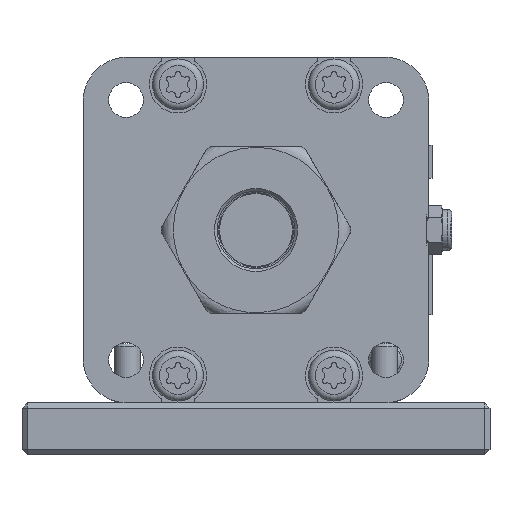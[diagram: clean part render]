
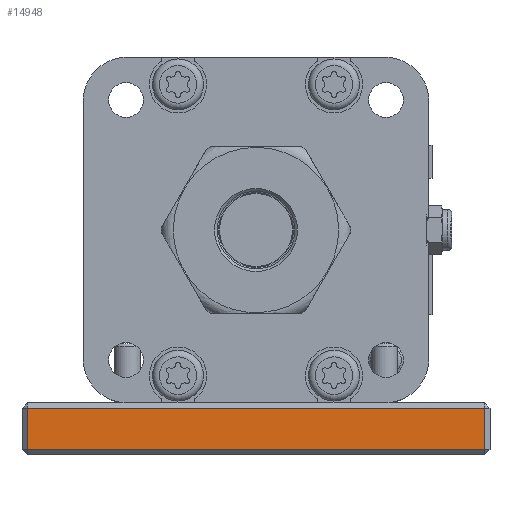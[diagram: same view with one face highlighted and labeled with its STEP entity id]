
A CAD part, front view. The second image highlights one B-rep face of the part: STEP entity #14948.
In plain terms, the highlighted planar face has unit normal (0, -1, 0) as drawn and (-1, 0, 0) by its records, which use the part's own axes.
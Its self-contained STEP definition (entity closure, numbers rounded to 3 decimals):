
#830=LINE($,#23622,#2045);
#846=LINE($,#23653,#2061);
#848=LINE($,#23656,#2063);
#863=LINE($,#23681,#2078);
#2045=VECTOR($,#18754,8.);
#2061=VECTOR($,#18782,8.);
#2063=VECTOR($,#18786,88.);
#2078=VECTOR($,#18815,88.);
#2885=PLANE($,#16048);
#3709=FACE_OUTER_BOUND($,#4601,.T.);
#4601=EDGE_LOOP($,(#11515,#11516,#11517,#11518));
#6887=VERTEX_POINT($,#23595);
#6893=VERTEX_POINT($,#23609);
#6895=VERTEX_POINT($,#23615);
#6906=VERTEX_POINT($,#23648);
#8569=EDGE_CURVE($,#6895,#6887,#830,.T.);
#8585=EDGE_CURVE($,#6893,#6906,#846,.T.);
#8587=EDGE_CURVE($,#6906,#6895,#848,.T.);
#8602=EDGE_CURVE($,#6887,#6893,#863,.T.);
#11515=ORIENTED_EDGE($,*,*,#8585,.F.);
#11516=ORIENTED_EDGE($,*,*,#8602,.F.);
#11517=ORIENTED_EDGE($,*,*,#8569,.F.);
#11518=ORIENTED_EDGE($,*,*,#8587,.F.);
#14948=ADVANCED_FACE($,(#3709),#2885,.T.);
#16048=AXIS2_PLACEMENT_3D($,#23696,#18834,#18835);
#18754=DIRECTION($,(0.,0.,-1.));
#18782=DIRECTION($,(0.,0.,1.));
#18786=DIRECTION($,(0.,-1.,0.));
#18815=DIRECTION($,(0.,1.,0.));
#18834=DIRECTION('center_axis',(-1.,0.,0.));
#18835=DIRECTION('ref_axis',(0.,-1.,0.));
#23595=CARTESIAN_POINT('',(-20.,-44.,1.));
#23609=CARTESIAN_POINT('',(-20.,44.,1.));
#23615=CARTESIAN_POINT('',(-20.,-44.,9.));
#23622=CARTESIAN_POINT($,(-20.,-44.,0.));
#23648=CARTESIAN_POINT('',(-20.,44.,9.));
#23653=CARTESIAN_POINT($,(-20.,44.,0.));
#23656=CARTESIAN_POINT($,(-20.,22.5,9.));
#23681=CARTESIAN_POINT($,(-20.,22.5,1.));
#23696=CARTESIAN_POINT('Origin',(-20.,45.,0.));
